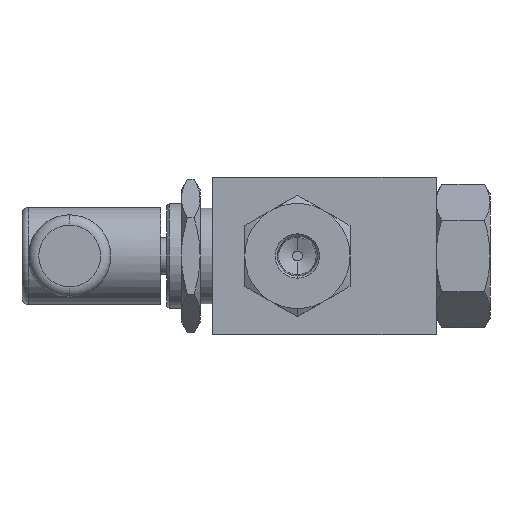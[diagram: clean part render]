
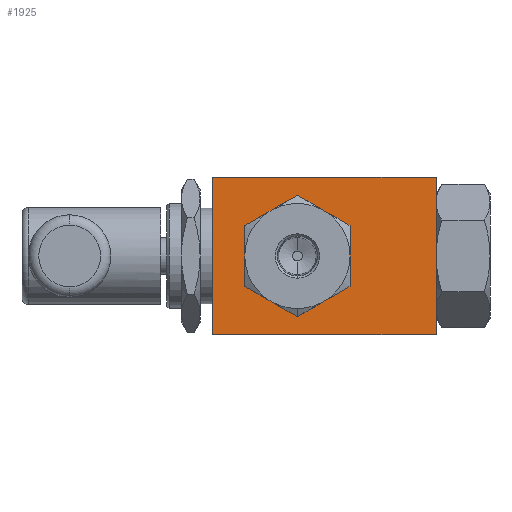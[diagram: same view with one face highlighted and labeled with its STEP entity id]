
A CAD part, left-side view. The second image highlights one B-rep face of the part: STEP entity #1925.
In plain terms, the highlighted planar face has unit normal (-1, 0, 0).
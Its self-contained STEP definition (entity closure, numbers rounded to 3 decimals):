
#113 = EDGE_LOOP ( 'NONE', ( #3953, #1522, #4045, #5936 ) ) ;
#115 = DIRECTION ( 'NONE',  ( 0., 0., -1. ) ) ;
#174 = FACE_BOUND ( 'NONE', #6211, .T. ) ;
#186 = CARTESIAN_POINT ( 'NONE',  ( -33.25, 27., 19. ) ) ;
#247 = EDGE_CURVE ( 'NONE', #3431, #4997, #5035, .T. ) ;
#292 = DIRECTION ( 'NONE',  ( 1., 0., 0. ) ) ;
#338 = EDGE_CURVE ( 'NONE', #2784, #2338, #871, .T. ) ;
#355 = DIRECTION ( 'NONE',  ( 0., 0., -1. ) ) ;
#500 = CIRCLE ( 'NONE', #599, 11. ) ;
#591 = DIRECTION ( 'NONE',  ( 1., 0., 0. ) ) ;
#599 = AXIS2_PLACEMENT_3D ( 'NONE', #4678, #5181, #1719 ) ;
#745 = CARTESIAN_POINT ( 'NONE',  ( -33.25, 1., -9.526 ) ) ;
#871 = CIRCLE ( 'NONE', #2535, 11. ) ;
#897 = DIRECTION ( 'NONE',  ( 1., 0., 0. ) ) ;
#899 = DIRECTION ( 'NONE',  ( 1., 0., 0. ) ) ;
#956 = CARTESIAN_POINT ( 'NONE',  ( -33.25, 27., -19. ) ) ;
#996 = DIRECTION ( 'NONE',  ( 0., 0., -1. ) ) ;
#1216 = VERTEX_POINT ( 'NONE', #3213 ) ;
#1238 = EDGE_CURVE ( 'NONE', #3796, #5442, #500, .T. ) ;
#1246 = ORIENTED_EDGE ( 'NONE', *, *, #338, .T. ) ;
#1256 = ORIENTED_EDGE ( 'NONE', *, *, #5900, .T. ) ;
#1346 = CARTESIAN_POINT ( 'NONE',  ( -33.25, 6.5, 0. ) ) ;
#1402 = CARTESIAN_POINT ( 'NONE',  ( -33.25, -27., 19. ) ) ;
#1413 = DIRECTION ( 'NONE',  ( 1., 0., 0. ) ) ;
#1501 = CARTESIAN_POINT ( 'NONE',  ( -33.25, 6.5, 0. ) ) ;
#1522 = ORIENTED_EDGE ( 'NONE', *, *, #247, .F. ) ;
#1560 = VECTOR ( 'NONE', #5013, 1000. ) ;
#1691 = EDGE_CURVE ( 'NONE', #2338, #4479, #5699, .T. ) ;
#1719 = DIRECTION ( 'NONE',  ( 0., 0., -1. ) ) ;
#1745 = VECTOR ( 'NONE', #2711, 1000. ) ;
#1751 = ORIENTED_EDGE ( 'NONE', *, *, #4039, .T. ) ;
#1803 = VERTEX_POINT ( 'NONE', #4973 ) ;
#1825 = CARTESIAN_POINT ( 'NONE',  ( -33.25, -27., -19. ) ) ;
#1883 = CIRCLE ( 'NONE', #4055, 11. ) ;
#1925 = ADVANCED_FACE ( 'NONE', ( #2643, #174 ), #2148, .F. ) ;
#1966 = DIRECTION ( 'NONE',  ( 1., 0., 0. ) ) ;
#2148 = PLANE ( 'NONE',  #5161 ) ;
#2277 = CARTESIAN_POINT ( 'NONE',  ( -33.25, 6.5, 0. ) ) ;
#2338 = VERTEX_POINT ( 'NONE', #745 ) ;
#2344 = CARTESIAN_POINT ( 'NONE',  ( -33.25, 1., 9.526 ) ) ;
#2535 = AXIS2_PLACEMENT_3D ( 'NONE', #4406, #1413, #5804 ) ;
#2578 = DIRECTION ( 'NONE',  ( 0., 0., -1. ) ) ;
#2586 = AXIS2_PLACEMENT_3D ( 'NONE', #5382, #899, #996 ) ;
#2615 = ORIENTED_EDGE ( 'NONE', *, *, #1238, .T. ) ;
#2643 = FACE_OUTER_BOUND ( 'NONE', #113, .T. ) ;
#2682 = AXIS2_PLACEMENT_3D ( 'NONE', #1346, #3287, #5257 ) ;
#2689 = CIRCLE ( 'NONE', #2899, 11. ) ;
#2711 = DIRECTION ( 'NONE',  ( 0., -1., 0. ) ) ;
#2784 = VERTEX_POINT ( 'NONE', #3863 ) ;
#2787 = EDGE_CURVE ( 'NONE', #5442, #3862, #1883, .T. ) ;
#2899 = AXIS2_PLACEMENT_3D ( 'NONE', #1501, #1966, #5879 ) ;
#2969 = EDGE_CURVE ( 'NONE', #1216, #5856, #4630, .T. ) ;
#2992 = VECTOR ( 'NONE', #4855, 1000. ) ;
#3093 = CARTESIAN_POINT ( 'NONE',  ( -33.25, -27., 19. ) ) ;
#3213 = CARTESIAN_POINT ( 'NONE',  ( -33.25, 27., 19. ) ) ;
#3229 = ORIENTED_EDGE ( 'NONE', *, *, #1691, .T. ) ;
#3287 = DIRECTION ( 'NONE',  ( 1., 0., 0. ) ) ;
#3305 = CIRCLE ( 'NONE', #2586, 11. ) ;
#3431 = VERTEX_POINT ( 'NONE', #1402 ) ;
#3618 = AXIS2_PLACEMENT_3D ( 'NONE', #2277, #292, #355 ) ;
#3708 = CARTESIAN_POINT ( 'NONE',  ( -33.25, -27., -19. ) ) ;
#3796 = VERTEX_POINT ( 'NONE', #5345 ) ;
#3826 = EDGE_CURVE ( 'NONE', #1803, #3796, #4031, .T. ) ;
#3862 = VERTEX_POINT ( 'NONE', #2344 ) ;
#3863 = CARTESIAN_POINT ( 'NONE',  ( -33.25, -4.5, 0. ) ) ;
#3894 = CARTESIAN_POINT ( 'NONE',  ( -33.25, 6.5, 0. ) ) ;
#3953 = ORIENTED_EDGE ( 'NONE', *, *, #5766, .T. ) ;
#4031 = CIRCLE ( 'NONE', #3618, 11. ) ;
#4039 = EDGE_CURVE ( 'NONE', #3862, #2784, #3305, .T. ) ;
#4045 = ORIENTED_EDGE ( 'NONE', *, *, #5829, .F. ) ;
#4055 = AXIS2_PLACEMENT_3D ( 'NONE', #3894, #897, #6381 ) ;
#4401 = VECTOR ( 'NONE', #115, 1000. ) ;
#4406 = CARTESIAN_POINT ( 'NONE',  ( -33.25, 6.5, 0. ) ) ;
#4479 = VERTEX_POINT ( 'NONE', #6103 ) ;
#4560 = CARTESIAN_POINT ( 'NONE',  ( -33.25, -27., 19. ) ) ;
#4630 = LINE ( 'NONE', #186, #1560 ) ;
#4678 = CARTESIAN_POINT ( 'NONE',  ( -33.25, 6.5, 0. ) ) ;
#4691 = LINE ( 'NONE', #1825, #1745 ) ;
#4855 = DIRECTION ( 'NONE',  ( 0., -1., 0. ) ) ;
#4891 = ORIENTED_EDGE ( 'NONE', *, *, #2787, .T. ) ;
#4973 = CARTESIAN_POINT ( 'NONE',  ( -33.25, 17.5, 0. ) ) ;
#4997 = VERTEX_POINT ( 'NONE', #3708 ) ;
#5013 = DIRECTION ( 'NONE',  ( 0., 0., -1. ) ) ;
#5035 = LINE ( 'NONE', #4560, #4401 ) ;
#5161 = AXIS2_PLACEMENT_3D ( 'NONE', #3093, #591, #2578 ) ;
#5181 = DIRECTION ( 'NONE',  ( 1., 0., 0. ) ) ;
#5257 = DIRECTION ( 'NONE',  ( 0., 0., -1. ) ) ;
#5345 = CARTESIAN_POINT ( 'NONE',  ( -33.25, 12., 9.526 ) ) ;
#5382 = CARTESIAN_POINT ( 'NONE',  ( -33.25, 6.5, 0. ) ) ;
#5406 = CARTESIAN_POINT ( 'NONE',  ( -33.25, 6.5, 11. ) ) ;
#5442 = VERTEX_POINT ( 'NONE', #5406 ) ;
#5699 = CIRCLE ( 'NONE', #2682, 11. ) ;
#5766 = EDGE_CURVE ( 'NONE', #5856, #4997, #4691, .T. ) ;
#5804 = DIRECTION ( 'NONE',  ( 0., 0., -1. ) ) ;
#5829 = EDGE_CURVE ( 'NONE', #1216, #3431, #5971, .T. ) ;
#5856 = VERTEX_POINT ( 'NONE', #956 ) ;
#5879 = DIRECTION ( 'NONE',  ( 0., 0., -1. ) ) ;
#5900 = EDGE_CURVE ( 'NONE', #4479, #1803, #2689, .T. ) ;
#5936 = ORIENTED_EDGE ( 'NONE', *, *, #2969, .T. ) ;
#5971 = LINE ( 'NONE', #6372, #2992 ) ;
#6103 = CARTESIAN_POINT ( 'NONE',  ( -33.25, 12., -9.526 ) ) ;
#6211 = EDGE_LOOP ( 'NONE', ( #3229, #1256, #6326, #2615, #4891, #1751, #1246 ) ) ;
#6326 = ORIENTED_EDGE ( 'NONE', *, *, #3826, .T. ) ;
#6372 = CARTESIAN_POINT ( 'NONE',  ( -33.25, -27., 19. ) ) ;
#6381 = DIRECTION ( 'NONE',  ( 0., 0., -1. ) ) ;
